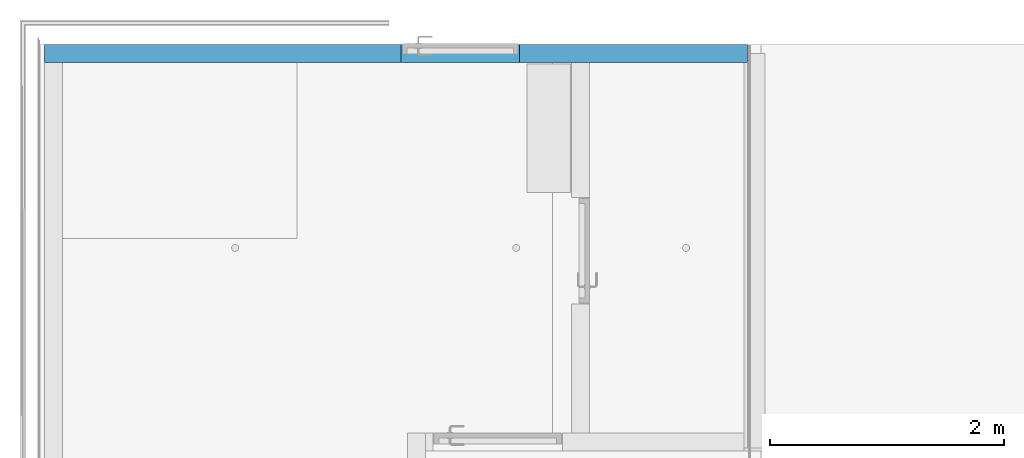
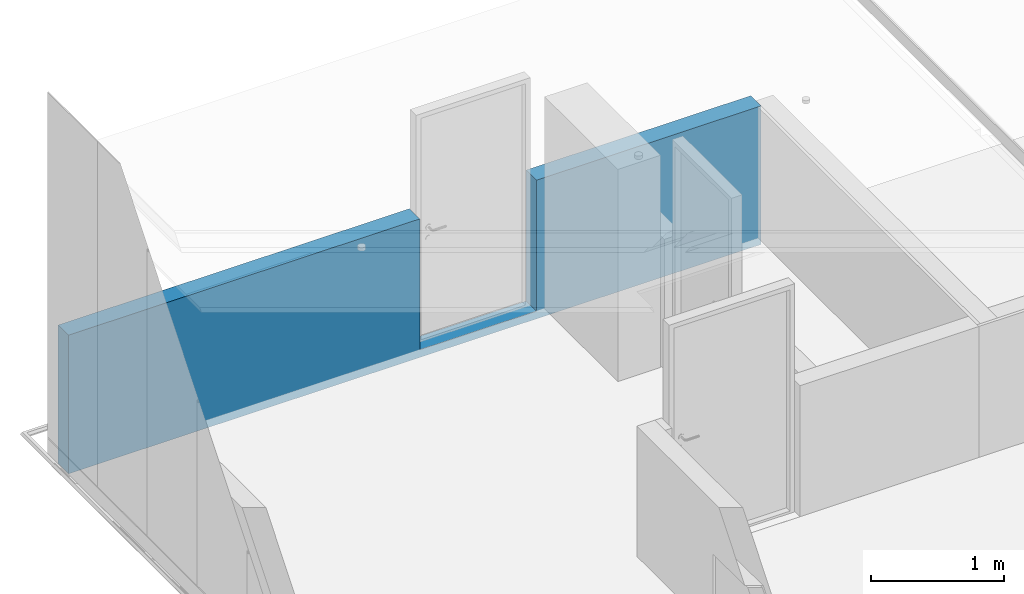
# One storey, part 8 of 16: 1 wall, 1 opening.
"""IFC2X3 building model written with IfcOpenShell, lengths in millimetres."""

from ifc_helpers import new_model, entity, si_unit, converted_unit, derived_unit, direction, frame, frame_2d, origin_with_axes, place, context, subcontext, project, spatial, rectangle, extrude, faceted_brep, material, layer, layer_set, type_object, element, save


model = new_model("IFC2X3")

# Units and contexts
model_context = context("Model", 3, precision=0.01, world=frame((0.0, 4.29681676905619e-09, 0.0)), true_north=direction((4.01073788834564e-13, 1.0)))
plan_context = context("Plan", 3, precision=0.01, world=frame((0.0, 4.29681676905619e-09, 0.0)), true_north=direction((4.01073788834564e-13, 1.0)))
body_context = subcontext(model_context, "Body", "Model", "MODEL_VIEW")
ifc_project = project(units=[converted_unit("PLANEANGLEUNIT", "DEGREE", entity("IfcPositiveLengthMeasure", 0.0174532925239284), si_unit("PLANEANGLEUNIT", "RADIAN"), dimensions=[0, 0, 0, 0, 0, 0, 0]), si_unit("AREAUNIT", "SQUARE_METRE"), si_unit("LENGTHUNIT", "METRE", prefix="MILLI"), si_unit("MASSUNIT", "GRAM", prefix="KILO"), si_unit("POWERUNIT", "WATT"), si_unit("PRESSUREUNIT", "PASCAL"), si_unit("FORCEUNIT", "NEWTON", prefix="KILO"), si_unit("ELECTRICCURRENTUNIT", "AMPERE"), si_unit("THERMODYNAMICTEMPERATUREUNIT", "DEGREE_CELSIUS"), si_unit("TIMEUNIT", "SECOND"), si_unit("VOLUMEUNIT", "CUBIC_METRE"), derived_unit("LINEARVELOCITYUNIT", [(si_unit("LENGTHUNIT", "METRE"), 1), (si_unit("TIMEUNIT", "SECOND"), -1)]), derived_unit("VOLUMETRICFLOWRATEUNIT", [(si_unit("VOLUMEUNIT", "CUBIC_METRE"), 1), (si_unit("TIMEUNIT", "SECOND"), -1)]), derived_unit("THERMALTRANSMITTANCEUNIT", [(si_unit("POWERUNIT", "WATT"), 1), (si_unit("THERMODYNAMICTEMPERATUREUNIT", "KELVIN"), -1), (si_unit("AREAUNIT", "SQUARE_METRE"), -1)])], contexts=[model_context, plan_context])

# Site, building, storey
site_placement = place(None, origin_with_axes())
site = spatial("IfcSite", under=ifc_project, at=site_placement, Name="ENGM", CompositionType="ELEMENT")
building_placement = place(site_placement, origin_with_axes())
building = spatial("IfcBuilding", under=site, at=building_placement, Name="TS", CompositionType="ELEMENT")
storey_placement = place(building_placement, frame((0.0, 0.0, 204000.0), z_axis=(0.0, 0.0, 1.0), x_axis=(1.0, 0.0, 0.0)))
storey = spatial("IfcBuildingStorey", under=building, at=storey_placement, Name="Nivå D", CompositionType="ELEMENT", Elevation=204000.0)

# Wall, opening
ifc_material_1 = material(Name="Plate - Gips")
ifc_layer_1 = layer(ifc_material_1, 12.5)
ifc_material_2 = material(Name="_NSW X-finer")
ifc_layer_2 = layer(ifc_material_2, 15.0)
ifc_material_3 = material(Name="_NSW Stålstender, isolert UTEN SKRAVUR")
ifc_layer_3 = layer(ifc_material_3, 100.0)
ifc_layer_4 = layer(ifc_material_2, 15.0)
ifc_layer_5 = layer(ifc_material_1, 12.5)
ifc_layer_set = layer_set([ifc_layer_1, ifc_layer_2, ifc_layer_3, ifc_layer_4, ifc_layer_5], Name="Basic Wall:A241 - SXVXS-100")
wall_type = type_object("IfcWallType", Name="Basic Wall:A241 - SXVXS-100", PredefinedType="STANDARD", material=ifc_layer_set)
wall_placement = place(storey_placement, frame((519925.000000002, 420792.691453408, -70.0), z_axis=(0.0, 0.0, 1.0), x_axis=(-1.0, 0.0, 0.0)))
wall = element("IfcWall", 1, at=wall_placement, inside=storey, type_object=wall_type, Name="Basic Wall:A241 - SXVXS-100", ObjectType="Basic Wall:A241 - SXVXS-100", context=body_context, shape_type="Brep", body=[
    faceted_brep([(0.0, -77.5, 0.0), (6002.50000000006, -77.5, 0.0), (6002.50000000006, -77.5, 1270.0), (2957.50000000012, -77.5, 1270.0), (2957.50000000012, -77.5, 70.0), (1947.50000000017, -77.5, 70.0), (1947.50000000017, -77.5, 1270.0), (0.0, -77.5, 1270.0), (6002.50000000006, 77.5, 0.0), (5847.50000000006, 77.5, 0.0), (0.0, 77.5, 0.0), (0.0, 77.5, 1270.0), (1947.50000000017, 77.5, 1270.0), (1947.50000000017, 77.5, 70.0), (2957.50000000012, 77.5, 70.0), (2957.50000000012, 77.5, 1270.0), (6002.50000000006, 77.5, 1270.0)], [[[0, 1, 2, 3, 4, 5, 6, 7]], [[8, 9, 10, 11, 12, 13, 14, 15, 16]], [[1, 8, 16, 2]], [[5, 13, 12, 6]], [[14, 4, 3, 15]], [[5, 4, 14, 13]], [[1, 0, 10, 9, 8]], [[10, 0, 7, 11]], [[3, 2, 16, 15]], [[7, 6, 12, 11]]]),
])
opening_placement = place(wall_placement, frame((2957.50000000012, 77.5, 70.0), z_axis=(0.0, 0.0, 1.0), x_axis=(1.0, 0.0, 0.0)))
element("IfcOpeningElement", 2, at=opening_placement, cuts=wall, Name="A20 - Slagdør - Enkel:A243 - DI_LTO - 0990 x 2090 mm:1", ObjectType="Opening", context=body_context, shape_type="SweptSolid", body=[
    extrude(rectangle(XDim=2109.99999999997, YDim=1010.0, at=frame_2d((1054.99999999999, 505.0), x_axis=(1.0, 0.0))), frame((0.0, 0.0, 0.0), z_axis=(0.0, -1.0, 0.0), x_axis=(0.0, 0.0, 1.0)), (0.0, 0.0, 1.0), 155.0),
])

save(model, "model.ifc")
